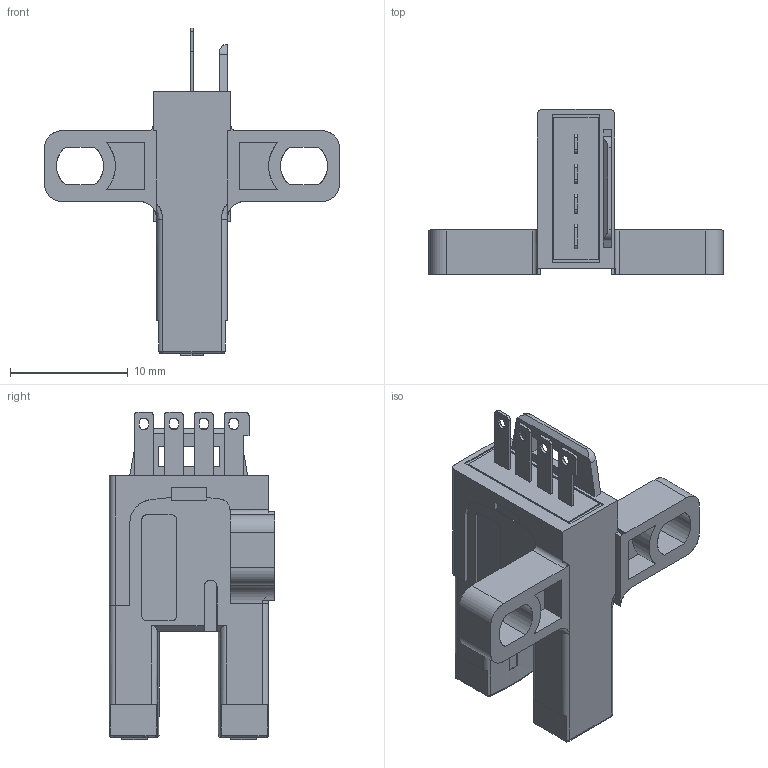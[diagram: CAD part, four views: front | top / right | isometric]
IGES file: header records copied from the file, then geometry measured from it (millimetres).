
Start section: SolidWorks IGES file using analytic representation for surfaces
Global section: file name: D:\权其捞瘤 档搁 犬厘磊 函券 累诀\颇飘1\BS5-T2M_BS5-T2M-P.IGS; native system: SolidWorks 2015; preprocessor: SolidWorks 2015; author: Administrator; date: 180719.113232; units: millimetre
Bounding box: 25 x 14.05 x 27.8 mm (x, y, z)
Surface area: 1729.2 mm2 (no closed solid volume)
Topology: 0 solids, 0 shells, 573 faces, 3952 edges, 3952 vertices
Faces by surface type: bspline 442, revolution 131
